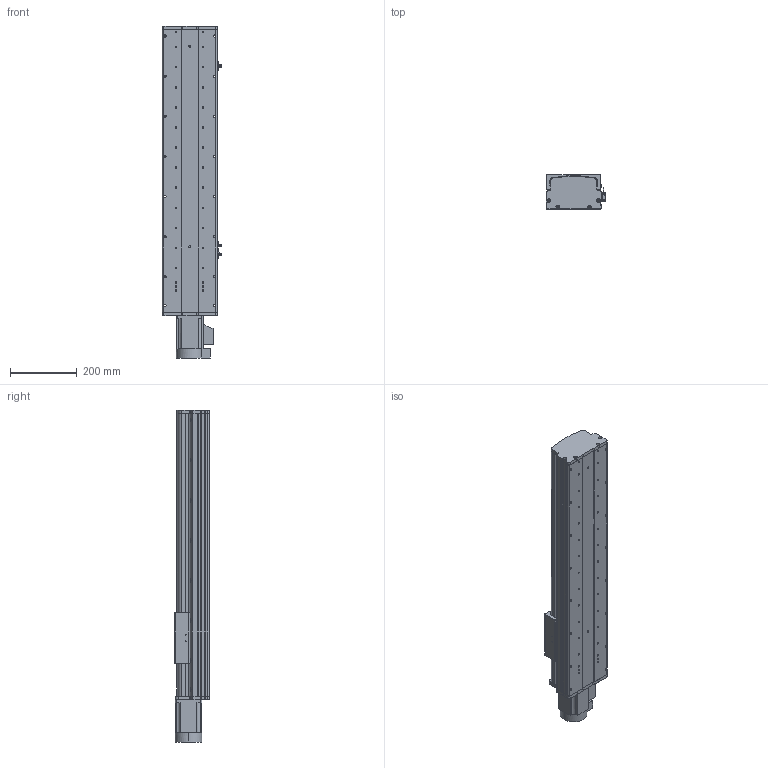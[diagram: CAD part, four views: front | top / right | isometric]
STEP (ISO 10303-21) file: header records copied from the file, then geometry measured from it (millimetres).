
FILE_DESCRIPTION (( 'STEP AP214' ), '1' );
FILE_NAME ('KSD165S-S550-MN-CM .STEP', '2017-08-07T08:11:17', ( '微软用户' ), ( '微软中国' ), 'SwSTEP 2.0', 'SolidWorks 2014', '' );
FILE_SCHEMA (( 'AUTOMOTIVE_DESIGN' ));
Length unit declared in the file: millimetre
Products named in the file (12): C44ㄜ1912WP; 覜茼え68遵圉猾敕; U倰嫖萇假蚾璃; U倰嫖萇EEㄜSX672; KSD165耀郪-綴傷啣1; KSD165模组-丝杆滑动座-最新版; KSD165S-S550-MN-CM ; KSD165模组-防尘盖1-550行程-直连不带电机座; KSD165模组底板-550行程-直连不带电机座; 拸秶雄ん750W侜督萇儂; KSD165模组-直连不带电机座电机连接板; KSD165耀郪-佪裝-滅袉菜-3 -
Assembly tree (15 placements, depth 2):
  KSD165S-S550-MN-CM 
    KSD165模组-丝杆滑动座-最新版
    KSD165耀郪-綴傷啣1
    U倰嫖萇EEㄜSX672  x3
    U倰嫖萇假蚾璃  x3
    覜茼え68遵圉猾敕
    C44ㄜ1912WP
    KSD165耀郪-佪裝-滅袉菜-3 -
    KSD165模组-直连不带电机座电机连接板
    拸秶雄ん750W侜督萇儂
    KSD165模组底板-550行程-直连不带电机座
    KSD165模组-防尘盖1-550行程-直连不带电机座
Bounding box: 178.7 x 104 x 993 mm (x, y, z)
Volume: 5833285.1 mm3; surface area: 1273285.9 mm2
Topology: 16 solids, 16 shells, 1197 faces, 3346 edges, 2169 vertices
Faces by surface type: cylinder 627, plane 493, cone 77
Entity records: 37583 total; most frequent: CARTESIAN_POINT 8439, DIRECTION 5587, ORIENTED_EDGE 5372, EDGE_CURVE 2686, AXIS2_PLACEMENT_3D 2093, VERTEX_POINT 1761, LINE 1401, VECTOR 1401
